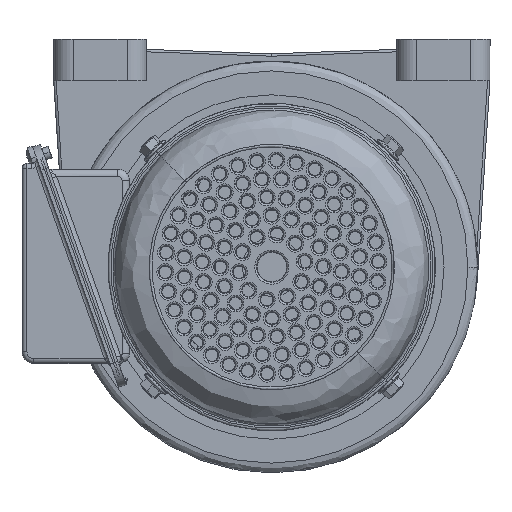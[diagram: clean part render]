
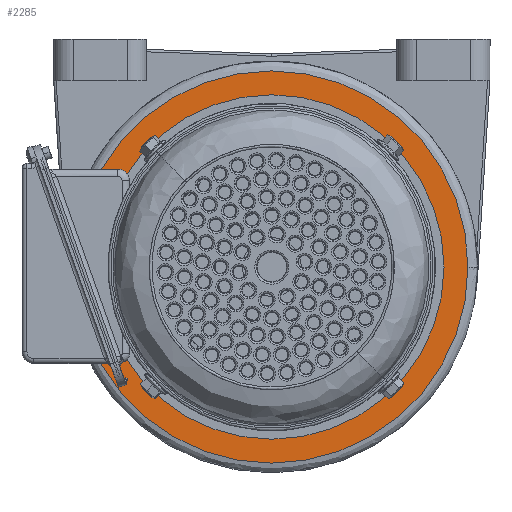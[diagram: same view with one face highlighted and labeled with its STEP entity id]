
A CAD part, front view. The second image highlights one B-rep face of the part: STEP entity #2285.
In plain terms, the highlighted planar face has unit normal (0, -1, 0) as drawn and (0, 0, -1) by its records, which use the part's own axes.
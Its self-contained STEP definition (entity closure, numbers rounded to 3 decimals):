
#2 = FACE_BOUND ( 'NONE', #55255, .T. ) ;
#41 = FACE_OUTER_BOUND ( 'NONE', #55140, .T. ) ;
#44 = AXIS2_PLACEMENT_3D ( 'NONE', #52170, #52171, #52172 ) ;
#2285 = ADVANCED_FACE ( 'NONE', ( #2, #41 ), #52169, .T. ) ;
#6289 = EDGE_CURVE ( 'NONE', #25396, #25199, #29717, .T. ) ;
#19346 = CIRCLE ( 'NONE', #40603, 80. ) ;
#19349 = CIRCLE ( 'NONE', #40605, 70.25 ) ;
#25161 = ORIENTED_EDGE ( 'NONE', *, *, #37130, .F. ) ;
#25181 = ORIENTED_EDGE ( 'NONE', *, *, #36821, .T. ) ;
#25189 = ORIENTED_EDGE ( 'NONE', *, *, #36829, .F. ) ;
#25199 = VERTEX_POINT ( 'NONE', #35118 ) ;
#25209 = ORIENTED_EDGE ( 'NONE', *, *, #6289, .T. ) ;
#25396 = VERTEX_POINT ( 'NONE', #35207 ) ;
#25578 = VERTEX_POINT ( 'NONE', #35286 ) ;
#25614 = VERTEX_POINT ( 'NONE', #35305 ) ;
#29717 = CIRCLE ( 'NONE', #42351, 80. ) ;
#35118 = CARTESIAN_POINT ( 'NONE',  ( -80., 0., -13. ) ) ;
#35207 = CARTESIAN_POINT ( 'NONE',  ( 80., 0., -13. ) ) ;
#35286 = CARTESIAN_POINT ( 'NONE',  ( 70.25, 0., -13. ) ) ;
#35305 = CARTESIAN_POINT ( 'NONE',  ( -70.25, 0., -13. ) ) ;
#36821 = EDGE_CURVE ( 'NONE', #25199, #25396, #19346, .T. ) ;
#36829 = EDGE_CURVE ( 'NONE', #25578, #25614, #19349, .T. ) ;
#37130 = EDGE_CURVE ( 'NONE', #25614, #25578, #43836, .T. ) ;
#40603 = AXIS2_PLACEMENT_3D ( 'NONE', #41160, #41164, #41165 ) ;
#40605 = AXIS2_PLACEMENT_3D ( 'NONE', #41200, #41201, #41202 ) ;
#40828 = AXIS2_PLACEMENT_3D ( 'NONE', #42919, #42920, #42921 ) ;
#41160 = CARTESIAN_POINT ( 'NONE',  ( 0., 0., -13. ) ) ;
#41164 = DIRECTION ( 'NONE',  ( 0., 0., -1. ) ) ;
#41165 = DIRECTION ( 'NONE',  ( -1., 0., 0. ) ) ;
#41200 = CARTESIAN_POINT ( 'NONE',  ( 0., 0., -13. ) ) ;
#41201 = DIRECTION ( 'NONE',  ( 0., 0., -1. ) ) ;
#41202 = DIRECTION ( 'NONE',  ( -1., 0., 0. ) ) ;
#42351 = AXIS2_PLACEMENT_3D ( 'NONE', #55457, #55458, #55459 ) ;
#42919 = CARTESIAN_POINT ( 'NONE',  ( 0., 0., -13. ) ) ;
#42920 = DIRECTION ( 'NONE',  ( 0., 0., -1. ) ) ;
#42921 = DIRECTION ( 'NONE',  ( -1., 0., 0. ) ) ;
#43836 = CIRCLE ( 'NONE', #40828, 70.25 ) ;
#52169 = PLANE ( 'NONE',  #44 ) ;
#52170 = CARTESIAN_POINT ( 'NONE',  ( 0., 0., -13. ) ) ;
#52171 = DIRECTION ( 'NONE',  ( 0., 0., -1. ) ) ;
#52172 = DIRECTION ( 'NONE',  ( -1., 0., 0. ) ) ;
#55140 = EDGE_LOOP ( 'NONE', ( #25181, #25209 ) ) ;
#55255 = EDGE_LOOP ( 'NONE', ( #25161, #25189 ) ) ;
#55457 = CARTESIAN_POINT ( 'NONE',  ( 0., 0., -13. ) ) ;
#55458 = DIRECTION ( 'NONE',  ( 0., 0., -1. ) ) ;
#55459 = DIRECTION ( 'NONE',  ( -1., 0., 0. ) ) ;
